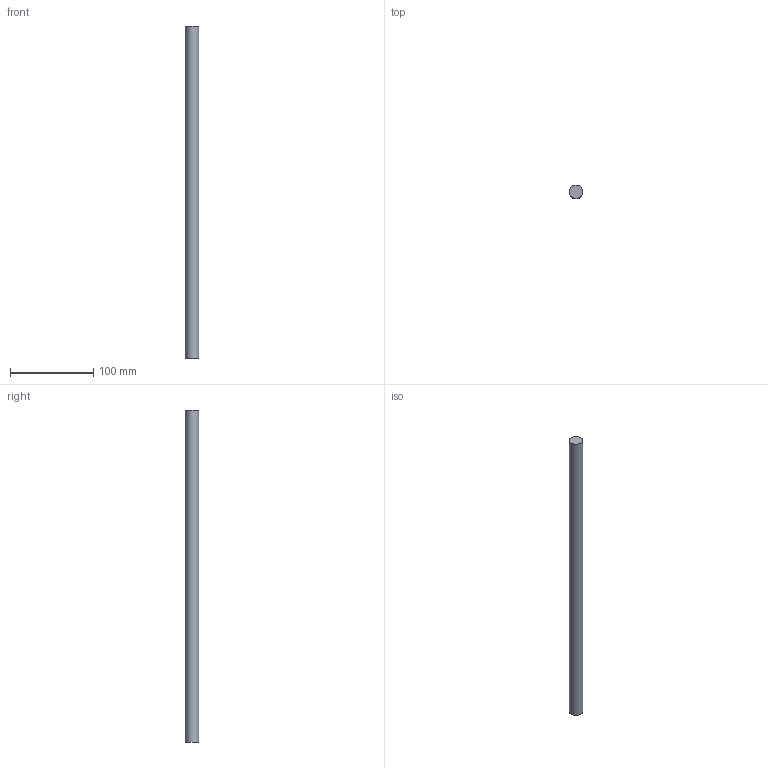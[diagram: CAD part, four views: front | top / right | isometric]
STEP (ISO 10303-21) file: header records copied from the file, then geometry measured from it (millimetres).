
FILE_DESCRIPTION(/* description */ (''),/* implementation_level */ '2;1');
FILE_NAME(/* name */ 'C:\Users\David\Desktop\stepFiles\Profilfuehrung\WF16x400.stp',/* time_stamp */ '2018-06-24T15:46:53+02:00',/* author */ ('David'),/* organization */ (''),/* preprocessor_version */ 'ST-DEVELOPER v17',/* originating_system */ 'Autodesk Inventor 2019',/* authorisation */ '');
FILE_SCHEMA (('AUTOMOTIVE_DESIGN { 1 0 10303 214 3 1 1 }'));
Length unit declared in the file: millimetre
Products named in the file (1): Wellenfuehrung
Bounding box: 16 x 16 x 400 mm (x, y, z)
Volume: 80424.8 mm3; surface area: 20508.3 mm2
Topology: 1 solids, 1 shells, 3 faces, 3 edges, 2 vertices
Faces by surface type: plane 2, cylinder 1
Full cylindrical faces by diameter (mm): 16 x1
Entity records: 98 total; most frequent: DIRECTION 13, CARTESIAN_POINT 9, ORIENTED_EDGE 6, AXIS2_PLACEMENT_3D 6, FACE_OUTER_BOUND 3, EDGE_LOOP 3, EDGE_CURVE 3, ADVANCED_FACE 3
